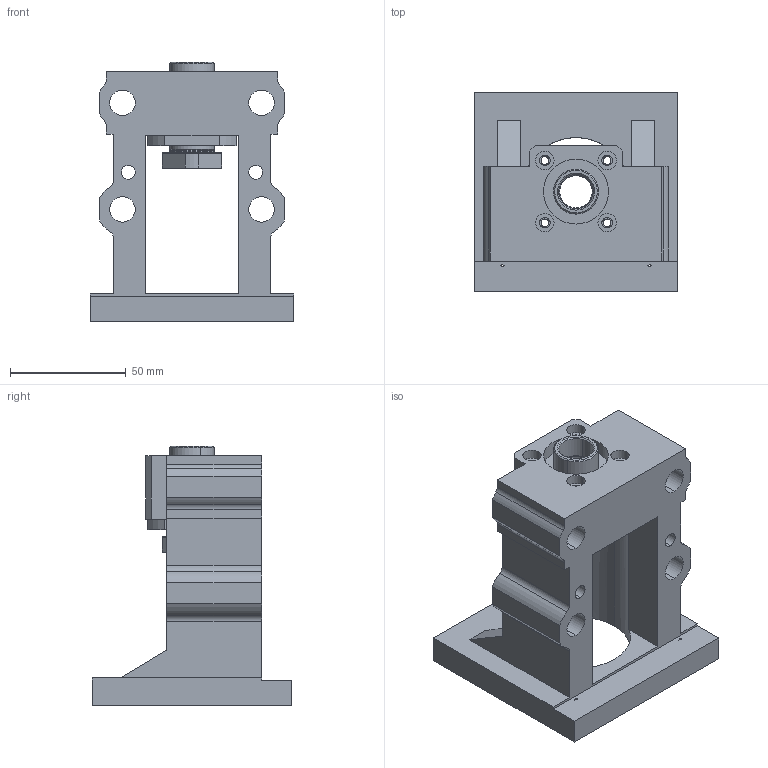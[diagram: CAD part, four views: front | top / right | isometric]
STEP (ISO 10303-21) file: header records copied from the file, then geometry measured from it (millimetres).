
FILE_DESCRIPTION((''),'2;1');
FILE_NAME('M80E-EK15-C_ASM','2019-08-17T',('ASUS'),(''),'PRO/ENGINEER BY PARAMETRIC TECHNOLOGY CORPORATION, 2010280','PRO/ENGINEER BY PARAMETRIC TECHNOLOGY CORPORATION, 2010280','');
FILE_SCHEMA(('CONFIG_CONTROL_DESIGN'));
Length unit declared in the file: millimetre
Products named in the file (8): MBCE15-E; MBCE15-E_2; PRT0005; PRT0006; MBCE15-E_3_ASM; _MBCE15-E_1; MBCE15-E_1_ASM; M80E-EK15-C_ASM
Assembly tree (8 placements, depth 4):
  M80E-EK15-C_ASM
    MBCE15-E_1_ASM
      MBCE15-E
      MBCE15-E_2  x2
      MBCE15-E_3_ASM
        PRT0005
        PRT0006
      _MBCE15-E_1
Bounding box: 88 x 86 x 112 mm (x, y, z)
Volume: 208157.3 mm3; surface area: 65630.4 mm2
Topology: 6 solids, 6 shells, 279 faces, 712 edges, 454 vertices
Faces by surface type: cylinder 124, plane 93, cone 54, bspline 8
Entity records: 9147 total; most frequent: CARTESIAN_POINT 2278, DIRECTION 1461, ORIENTED_EDGE 1360, EDGE_CURVE 680, AXIS2_PLACEMENT_3D 567, VERTEX_POINT 438, EDGE_LOOP 332, VECTOR 327
